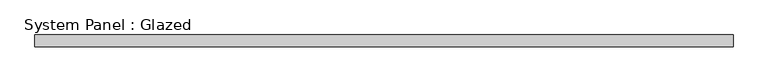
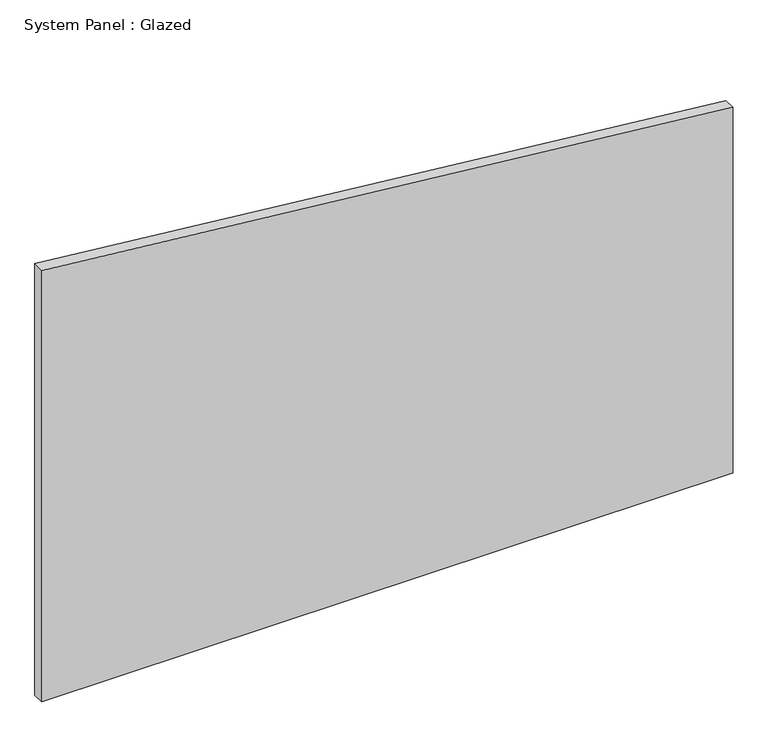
"""IFC4 building model written with IfcOpenShell, lengths in millimetres: plate geometry, System Panel : Glazed."""

from ifc_helpers import new_model, si_unit, frame, origin, place, context, project, spatial, polyline, outline, extrude, source, transform, mapped, element, save


def system_panel_glazed_196ad309(model_context):
    return source(origin(), model_context, "Body", "SweptSolid", [
        extrude(outline(polyline([(0.0, -735.8695652), (0.0, 735.8695652), (823.5965171, 735.8695652), (971.5794959, -735.8695652), (0.0, -735.8695652)])), frame((0.0, 24.5, 0.0), z_axis=(0.0, 1.0, 0.0), x_axis=(0.0, 0.0, 1.0)), (0.0, 0.0, 1.0), 25.0),
    ])


if __name__ == "__main__":
    model = new_model("IFC4")
    model_context = context("Model", 3, world=origin())
    ifc_project = project(units=[si_unit("LENGTHUNIT", "METRE", prefix="MILLI")], contexts=[model_context])
    site = spatial("IfcSite", under=ifc_project)
    building = spatial("IfcBuilding", under=site)
    placement = place(None, origin())
    system_panel_glazed_shape = system_panel_glazed_196ad309(model_context)
    element("IfcPlate", 1, ObjectType="System Panel : Glazed", at=placement, inside=building, context=model_context, shape_type="MappedRepresentation", body=[
        mapped(system_panel_glazed_shape, transform((0.0, 0.0, 0.0), x_axis=(1.0, 0.0, 0.0), y_axis=(0.0, 1.0, 0.0), z_axis=(0.0, 0.0, 1.0))),
    ])
    save(model, "model.ifc")
